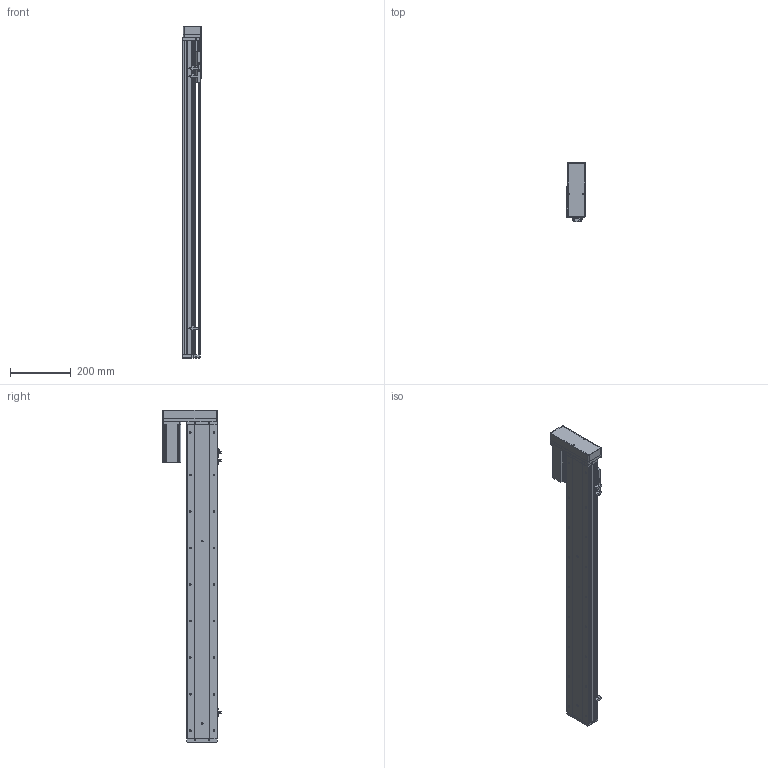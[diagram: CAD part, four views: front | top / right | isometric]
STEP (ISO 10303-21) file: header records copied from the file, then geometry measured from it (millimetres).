
FILE_DESCRIPTION (( 'STEP AP214' ), '1' );
FILE_NAME ('KSD100S-S850-MR-CM.STEP', '2019-08-30T06:34:38', ( '微软用户' ), ( '微软中国' ), 'SwSTEP 2.0', 'SolidWorks 2014', '' );
FILE_SCHEMA (( 'AUTOMOTIVE_DESIGN' ));
Length unit declared in the file: millimetre
Products named in the file (11): 悵誘欶酘衵殏; 台达ECMA－C20604AS伺服电机; 100宽马达安装板连板左右折丝杆; U倰嫖萇EEㄜSX672; 覜茼え100遵圉猾敕; 100宽防尘板丝杆850行程; 100遵鎮湛假蚾啣; 100宽滚珠螺姆安装板半封闭; 100遵傷啣; 100宽底板半封闭丝杆850行程; KSD100S-S850-MR-CM
Assembly tree (12 placements, depth 2):
  KSD100S-S850-MR-CM
    100宽底板半封闭丝杆850行程
    100遵傷啣
    100宽滚珠螺姆安装板半封闭
    100遵鎮湛假蚾啣
    100宽防尘板丝杆850行程
    覜茼え100遵圉猾敕
    U倰嫖萇EEㄜSX672  x3
    100宽马达安装板连板左右折丝杆
    台达ECMA－C20604AS伺服电机
    悵誘欶酘衵殏
Bounding box: 62 x 193.7 x 1090.5 mm (x, y, z)
Volume: 2613584.8 mm3; surface area: 850979.3 mm2
Topology: 13 solids, 13 shells, 1317 faces, 3712 edges, 2341 vertices
Faces by surface type: cylinder 654, plane 512, cone 151
Entity records: 46141 total; most frequent: CARTESIAN_POINT 9127, DIRECTION 6275, ORIENTED_EDGE 6028, EDGE_CURVE 3014, AXIS2_PLACEMENT_3D 2293, VERTEX_POINT 1965, LINE 1689, VECTOR 1689
